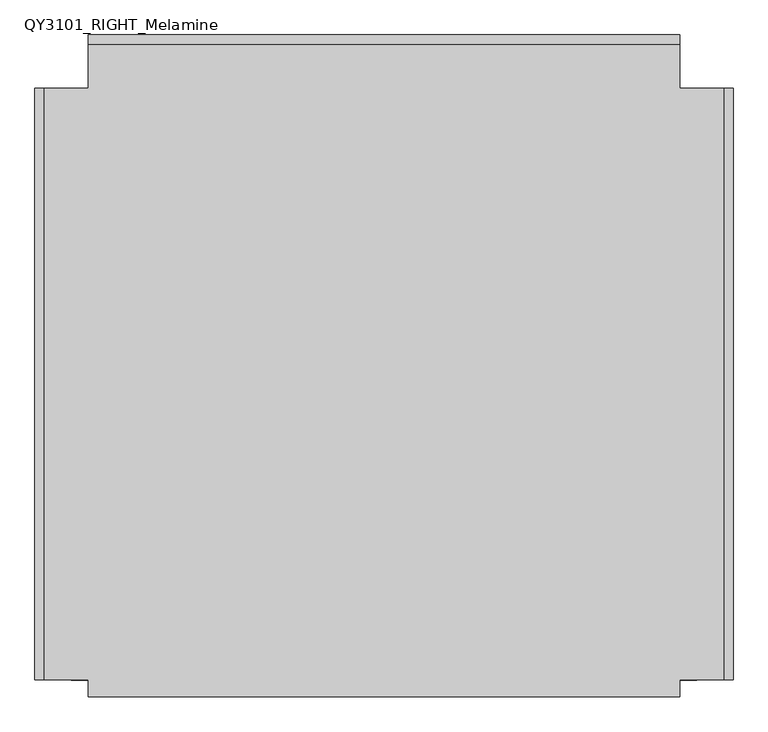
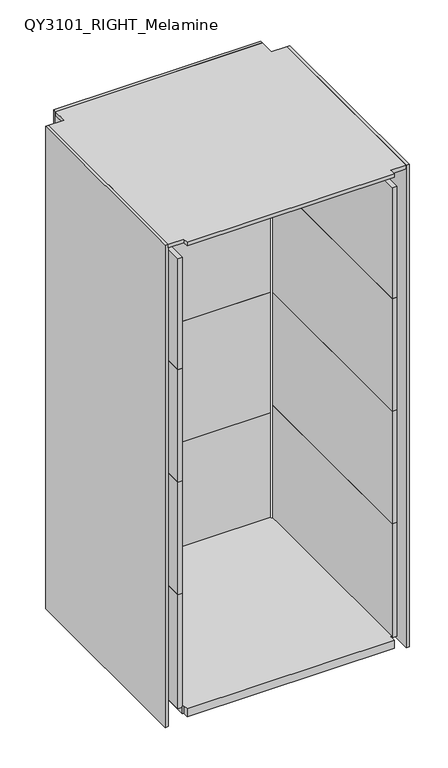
"""IFC4 building model written with IfcOpenShell, lengths in millimetres: furniture geometry, Qyos_100 : QY3101_RIGHT_Melamine."""

from ifc_helpers import new_model, si_unit, point, frame, frame_2d, origin, origin_with_axes, place, context, project, spatial, polyline, circle_curve, ellipse_curve, trimmed, segment, composite_curve, outline, extrude, source, transform, mapped, element, save
from ifc_brep_helpers import plane_surface, revolved_surface, advanced_brep


def qy3101_right_melamine_67ade100(model_context):
    return source(origin(), model_context, "Body", "SolidModel", [
        advanced_brep(
        [(-389.0102872, 400.0, 7.0), (-366.9897128, 400.0, 7.0), (-378.0, 400.0, 7.0), (-390.853369, 400.0, 8.8430818), (-365.146631, 400.0, 8.8430818), (-393.1395917, 400.0, 37.8922955), (-362.8604083, 400.0, 37.8922955), (-397.5075531, 400.0, 42.2602568), (-358.4924469, 400.0, 42.2602568), (-378.0, 400.0, 42.2602568)],
        [
            (0, 1, circle_curve(frame((-378.0, 400.0, 7.0), z_axis=(0.0, 0.0, -1.0), x_axis=(1.0, 0.0, 0.0)), 11.0102872)),
            (1, 2),
            (2, 0),
            (1, 0, circle_curve(frame((-378.0, 400.0, 7.0), z_axis=(0.0, 0.0, -1.0), x_axis=(1.0, 0.0, 0.0)), 11.0102872)),
            (3, 4, circle_curve(frame((-378.0, 400.0, 8.8430818), z_axis=(0.0, 0.0, -1.0), x_axis=(1.0, 0.0, 0.0)), 12.853369)),
            (4, 1, circle_curve(frame((-366.9897128, 400.0, 8.8430818), z_axis=(0.0, 1.0, 0.0), x_axis=(1.0, 0.0, 0.0)), 1.8430818)),
            (0, 3, circle_curve(frame((-389.0102872, 400.0, 8.8430818), z_axis=(0.0, 1.0, 0.0), x_axis=(-1.0, 0.0, 0.0)), 1.8430818)),
            (4, 3, circle_curve(frame((-378.0, 400.0, 8.8430818), z_axis=(0.0, 0.0, -1.0), x_axis=(1.0, 0.0, 0.0)), 12.853369)),
            (5, 6, circle_curve(frame((-378.0, 400.0, 37.8922955), z_axis=(0.0, 0.0, -1.0), x_axis=(1.0, 0.0, 0.0)), 15.1395917)),
            (6, 4),
            (3, 5),
            (6, 5, circle_curve(frame((-378.0, 400.0, 37.8922955), z_axis=(0.0, 0.0, -1.0), x_axis=(1.0, 0.0, 0.0)), 15.1395917)),
            (7, 8, circle_curve(frame((-378.0, 400.0, 42.2602568), z_axis=(0.0, 0.0, -1.0), x_axis=(1.0, 0.0, 0.0)), 19.5075531)),
            (8, 6, circle_curve(frame((-358.4924469, 400.0, 37.8922955), z_axis=(0.0, -1.0, 0.0), x_axis=(1.0, 0.0, 0.0)), 4.3679613)),
            (5, 7, circle_curve(frame((-397.5075531, 400.0, 37.8922955), z_axis=(0.0, -1.0, 0.0), x_axis=(-1.0, 0.0, 0.0)), 4.3679613)),
            (8, 7, circle_curve(frame((-378.0, 400.0, 42.2602568), z_axis=(0.0, 0.0, -1.0), x_axis=(1.0, 0.0, 0.0)), 19.5075531)),
            (9, 8),
            (7, 9),
        ],
        [
            plane_surface(frame((-378.0, 400.0, 7.0), z_axis=(0.0, 0.0, -1.0), x_axis=(1.0, 0.0, 0.0))),
            revolved_surface(trimmed(ellipse_curve(frame((-366.9897128, 400.0, 8.8430818), z_axis=(0.0, -1.0, 0.0), x_axis=(1.0, 0.0, 0.0)), 1.8430818, 1.8430818), [point((-366.9897128, 400.0, 7.0))], [point((-365.146631, 400.0, 8.8430818))], True, "CARTESIAN"), (-378.0, 400.0, 1997.4144888), (0.0, 0.0, 1.0)),
            revolved_surface(polyline([(-365.146631, 400.0, 8.8430818), (-362.8604083, 400.0, 37.8922955)]), (-378.0, 400.0, 1997.4144888), (0.0, 0.0, 1.0)),
            revolved_surface(trimmed(ellipse_curve(frame((-358.4924469, 400.0, 37.8922955), z_axis=(0.0, 1.0, 0.0), x_axis=(1.0, 0.0, 0.0)), 4.3679613, 4.3679613), [point((-362.8604083, 400.0, 37.8922955))], [point((-358.4924469, 400.0, 42.2602568))], True, "CARTESIAN"), (-378.0, 400.0, 1997.4144888), (0.0, 0.0, 1.0)),
            plane_surface(frame((-378.0, 400.0, 42.2602568), z_axis=(0.0, 0.0, 1.0), x_axis=(1.0, 0.0, 0.0))),
        ],
        [
            (0, [[1, 2, 3]]),
            (0, [[4, -3, -2]]),
            (1, [[5, 6, -1, 7]]),
            (1, [[8, -7, -4, -6]]),
            (2, [[9, 10, -5, 11]]),
            (2, [[12, -11, -8, -10]]),
            (3, [[13, 14, -9, 15]]),
            (3, [[16, -15, -12, -14]]),
            (4, [[17, -13, 18]]),
            (4, [[-18, -16, -17]]),
        ],
    ),
        extrude(outline(composite_curve([segment(trimmed(circle_curve(frame_2d((-378.0, 400.0)), 23.1414644), [point((-401.1414644, 400.0))], [point((-354.8585356, 400.0))], False, "CARTESIAN"), True, "CONTINUOUS"), segment(trimmed(circle_curve(frame_2d((-378.0, 400.0)), 23.1414644), [point((-354.8585356, 400.0))], [point((-401.1414644, 400.0))], False, "CARTESIAN"), True, "CONTINUOUS")], self_intersect=False)), origin_with_axes(), (0.0, 0.0, 1.0), 7.0),
        extrude(outline(composite_curve([segment(trimmed(circle_curve(frame_2d((-336.5, 432.5)), 10.0), [point((-336.5, 442.5))], [point((-326.5, 432.5))], False, "CARTESIAN"), True, "CONTINUOUS"), segment(polyline([(-326.5, 432.5), (-326.5, 367.5)]), True, "CONTINUOUS"), segment(trimmed(circle_curve(frame_2d((-336.5, 367.5)), 10.0), [point((-326.5, 367.5))], [point((-336.5, 357.5))], False, "CARTESIAN"), True, "CONTINUOUS"), segment(polyline([(-336.5, 357.5), (-419.5, 357.5)]), True, "CONTINUOUS"), segment(trimmed(circle_curve(frame_2d((-419.5, 367.5)), 10.0), [point((-419.5, 357.5))], [point((-429.5, 367.5))], False, "CARTESIAN"), True, "CONTINUOUS"), segment(polyline([(-429.5, 367.5), (-429.5, 432.5)]), True, "CONTINUOUS"), segment(trimmed(circle_curve(frame_2d((-419.5, 432.5)), 10.0), [point((-429.5, 432.5))], [point((-419.5, 442.5))], False, "CARTESIAN"), True, "CONTINUOUS"), segment(polyline([(-419.5, 442.5), (-336.5, 442.5)]), True, "CONTINUOUS")], self_intersect=False)), frame((0.0, 0.0, 42.2602568), z_axis=(0.0, 0.0, 1.0), x_axis=(1.0, 0.0, 0.0)), (0.0, 0.0, 1.0), 4.7397432),
        extrude(outline(composite_curve([segment(trimmed(circle_curve(frame_2d((320.0, 17.6301284)), 17.6301284), [point((302.3698716, 17.6301284))], [point((337.6301284, 17.6301284))], False, "CARTESIAN"), True, "CONTINUOUS"), segment(trimmed(circle_curve(frame_2d((320.0, 17.6301284)), 17.6301284), [point((337.6301284, 17.6301284))], [point((302.3698716, 17.6301284))], False, "CARTESIAN"), True, "CONTINUOUS")], self_intersect=False)), frame((-418.4669948, 0.0, 0.0), z_axis=(1.0, 0.0, 0.0), x_axis=(0.0, 1.0, 0.0)), (0.0, 0.0, 1.0), 26.9339897),
        extrude(outline(composite_curve([segment(trimmed(circle_curve(frame_2d((-405.0, 320.0)), 20.0), [point((-425.0, 320.0))], [point((-385.0, 320.0))], False, "CARTESIAN"), True, "CONTINUOUS"), segment(trimmed(circle_curve(frame_2d((-405.0, 320.0)), 20.0), [point((-385.0, 320.0))], [point((-425.0, 320.0))], False, "CARTESIAN"), True, "CONTINUOUS")], self_intersect=False)), frame((0.0, 0.0, 35.2602568), z_axis=(0.0, 0.0, 1.0), x_axis=(1.0, 0.0, 0.0)), (0.0, 0.0, 1.0), 7.0),
        extrude(outline(polyline([(-435.0, 290.0), (-435.0, 350.0), (-375.0, 350.0), (-375.0, 290.0), (-435.0, 290.0)])), frame((0.0, 0.0, 42.2602568), z_axis=(0.0, 0.0, 1.0), x_axis=(1.0, 0.0, 0.0)), (0.0, 0.0, 1.0), 4.7397432),
        extrude(outline(polyline([(445.0, 470.0), (445.0, 451.0), (-445.0, 451.0), (-445.0, 470.0), (445.0, 470.0)])), frame((0.0, 0.0, 1617.9823403), z_axis=(0.0, 0.0, 1.0), x_axis=(1.0, 0.0, 0.0)), (0.0, 0.0, 1.0), 504.1176597),
        extrude(outline(polyline([(445.0, 470.0), (445.0, 451.0), (-445.0, 451.0), (-445.0, 470.0), (445.0, 470.0)])), frame((0.0, 0.0, 1106.0116287), z_axis=(0.0, 0.0, 1.0), x_axis=(1.0, 0.0, 0.0)), (0.0, 0.0, 1.0), 511.9707116),
        extrude(outline(polyline([(445.0, 470.0), (445.0, 451.0), (-445.0, 451.0), (-445.0, 470.0), (445.0, 470.0)])), frame((0.0, 0.0, 558.0116287), z_axis=(0.0, 0.0, 1.0), x_axis=(1.0, 0.0, 0.0)), (0.0, 0.0, 1.0), 548.0),
        extrude(outline(polyline([(445.0, 470.0), (445.0, 451.0), (-445.0, 451.0), (-445.0, 470.0), (445.0, 470.0)])), frame((0.0, 0.0, 82.0), z_axis=(0.0, 0.0, 1.0), x_axis=(1.0, 0.0, 0.0)), (0.0, 0.0, 1.0), 476.0116287),
        extrude(outline(polyline([(-445.0, 511.0), (-445.0, 525.0), (445.0, 525.0), (445.0, 511.0), (-445.0, 511.0)])), frame((0.0, 0.0, 10.0), z_axis=(0.0, 0.0, 1.0), x_axis=(1.0, 0.0, 0.0)), (0.0, 0.0, 1.0), 2192.1),
        extrude(outline(polyline([(-451.0, 445.0), (-445.0, 445.0), (-445.0, 470.0), (445.0, 470.0), (445.0, 445.0), (451.0, 445.0), (451.0, -445.0), (445.0, -445.0), (445.0, -469.9956819), (-445.0, -469.9956819), (-445.0, -445.0), (-451.0, -445.0), (-451.0, 445.0)])), frame((0.0, 0.0, 47.0), z_axis=(0.0, 0.0, 1.0), x_axis=(1.0, 0.0, 0.0)), (0.0, 0.0, 1.0), 35.0),
        extrude(outline(polyline([(445.0, 511.0), (445.0, 445.0), (511.0, 445.0), (511.0, -445.0), (445.0, -445.0), (445.0, -469.9956819), (-445.0, -469.9956819), (-445.0, -445.0), (-511.0, -445.0), (-511.0, 445.0), (-445.0, 445.0), (-445.0, 511.0), (445.0, 511.0)])), frame((0.0, 0.0, 2186.1), z_axis=(0.0, 0.0, 1.0), x_axis=(1.0, 0.0, 0.0)), (0.0, 0.0, 1.0), 16.0),
        extrude(outline(polyline([(470.0, -444.9498873), (451.0, -444.9498873), (451.0, 445.0024364), (470.0, 445.0024364), (470.0, -444.9498873)])), frame((0.0, 0.0, 1617.9823403), z_axis=(0.0, 0.0, 1.0), x_axis=(1.0, 0.0, 0.0)), (0.0, 0.0, 1.0), 504.1176597),
        extrude(outline(polyline([(-470.0, -445.0), (-470.0, 445.0), (-451.0, 445.0), (-451.0, -445.0), (-470.0, -445.0)])), frame((0.0, 0.0, 1617.9823403), z_axis=(0.0, 0.0, 1.0), x_axis=(1.0, 0.0, 0.0)), (0.0, 0.0, 1.0), 504.1176597),
        extrude(outline(polyline([(470.0, -445.0), (451.0, -445.0), (451.0, 445.0), (470.0, 445.0), (470.0, -445.0)])), frame((0.0, 0.0, 1106.0116287), z_axis=(0.0, 0.0, 1.0), x_axis=(1.0, 0.0, 0.0)), (0.0, 0.0, 1.0), 511.9707116),
        extrude(outline(polyline([(-470.0, -445.0), (-470.0, 445.0), (-451.0, 445.0), (-451.0, -445.0), (-470.0, -445.0)])), frame((0.0, 0.0, 1106.0116287), z_axis=(0.0, 0.0, 1.0), x_axis=(1.0, 0.0, 0.0)), (0.0, 0.0, 1.0), 511.9707116),
        extrude(outline(polyline([(470.0, -445.0), (451.0, -445.0), (451.0, 445.0), (470.0, 445.0), (470.0, -445.0)])), frame((0.0, 0.0, 593.9823403), z_axis=(0.0, 0.0, 1.0), x_axis=(1.0, 0.0, 0.0)), (0.0, 0.0, 1.0), 512.0292884),
        extrude(outline(polyline([(-470.0, -445.0), (-470.0, 445.0), (-451.0, 445.0), (-451.0, -445.0), (-470.0, -445.0)])), frame((0.0, 0.0, 593.9823403), z_axis=(0.0, 0.0, 1.0), x_axis=(1.0, 0.0, 0.0)), (0.0, 0.0, 1.0), 512.0292884),
        extrude(outline(polyline([(470.0, -445.0), (451.0, -445.0), (451.0, 445.0), (470.0, 445.0), (470.0, -445.0)])), frame((0.0, 0.0, 77.0), z_axis=(0.0, 0.0, 1.0), x_axis=(1.0, 0.0, 0.0)), (0.0, 0.0, 1.0), 516.9823403),
        extrude(outline(polyline([(-470.0, -445.0), (-470.0, 445.0), (-451.0, 445.0), (-451.0, -445.0), (-470.0, -445.0)])), frame((0.0, 0.0, 77.0), z_axis=(0.0, 0.0, 1.0), x_axis=(1.0, 0.0, 0.0)), (0.0, 0.0, 1.0), 516.9823403),
        extrude(outline(polyline([(-525.0, -445.0), (-525.0, 445.0), (-511.0, 445.0), (-511.0, -445.0), (-525.0, -445.0)])), frame((0.0, 0.0, 10.0), z_axis=(0.0, 0.0, 1.0), x_axis=(1.0, 0.0, 0.0)), (0.0, 0.0, 1.0), 2192.1),
        extrude(outline(polyline([(525.0, -445.0), (511.0, -445.0), (511.0, 445.0), (525.0, 445.0), (525.0, -445.0)])), frame((0.0, 0.0, 10.0), z_axis=(0.0, 0.0, 1.0), x_axis=(1.0, 0.0, 0.0)), (0.0, 0.0, 1.0), 2192.1),
    ])


if __name__ == "__main__":
    model = new_model("IFC4")
    model_context = context("Model", 3, world=origin())
    ifc_project = project(units=[si_unit("LENGTHUNIT", "METRE", prefix="MILLI")], contexts=[model_context])
    site = spatial("IfcSite", under=ifc_project)
    building = spatial("IfcBuilding", under=site)
    placement = place(None, origin())
    qy3101_right_melamine_shape = qy3101_right_melamine_67ade100(model_context)
    element("IfcFurniture", 1, ObjectType="Qyos_100 : QY3101_RIGHT_Melamine", at=placement, inside=building, context=model_context, shape_type="MappedRepresentation", body=[
        mapped(qy3101_right_melamine_shape, transform((0.0, 0.0, 0.0), x_axis=(1.0, 0.0, 0.0), y_axis=(0.0, 1.0, 0.0), z_axis=(0.0, 0.0, 1.0))),
    ])
    save(model, "model.ifc")
